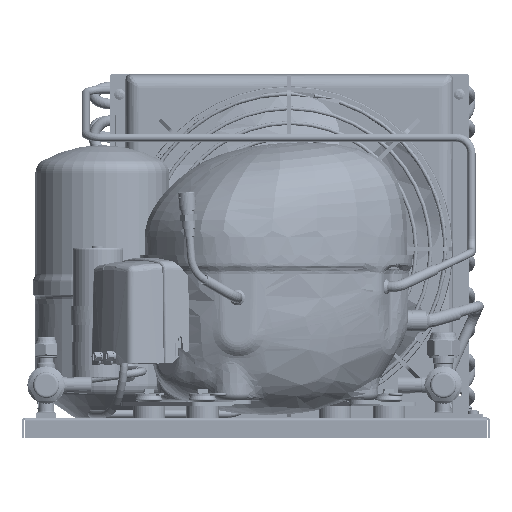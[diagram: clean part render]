
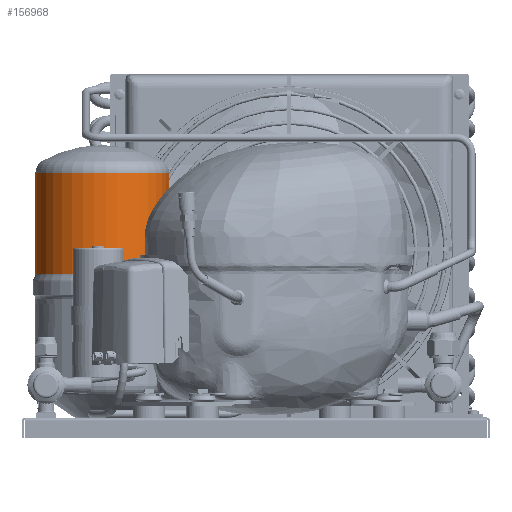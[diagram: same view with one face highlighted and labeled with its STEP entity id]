
A CAD part, front view. The second image highlights one B-rep face of the part: STEP entity #156968.
In plain terms, the highlighted cylindrical face has radius 50 mm (diameter 100 mm), a full revolution.
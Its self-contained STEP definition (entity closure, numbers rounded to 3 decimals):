
#3699=B_SPLINE_CURVE_WITH_KNOTS('',3,(#262653,#262654,#262655,#262656,#262657,
#262658,#262659,#262660,#262661,#262662,#262663,#262664,#262665,#262666,
#262667,#262668,#262669,#262670,#262671,#262672,#262673,#262674,#262675,
#262676,#262677,#262678,#262679,#262680,#262681),.UNSPECIFIED.,.T.,.F.,
(1,1,1,1,1,1,1,1,1,1,1,1,1,1,1,1,1,1,1,1,1,1,1,1,1,1,1,1,1,1,1,1,1),(-0.128,
-0.066,-0.033,0.,0.059,0.091,0.122,
0.184,0.215,0.247,0.309,0.34,
0.372,0.434,0.497,0.5,
0.53,0.559,0.591,0.622,
0.684,0.715,0.747,0.778,
0.809,0.84,0.872,0.934,
0.967,1.,1.059,1.091,1.122),.UNSPECIFIED.);
#40347=CYLINDRICAL_SURFACE('',#166724,50.);
#42801=CIRCLE('',#166725,50.);
#42802=CIRCLE('',#166726,50.);
#59693=ORIENTED_EDGE('',*,*,#89635,.T.);
#59694=ORIENTED_EDGE('',*,*,#89636,.T.);
#59695=ORIENTED_EDGE('',*,*,#89637,.T.);
#89635=EDGE_CURVE('',#105695,#105695,#42801,.F.);
#89636=EDGE_CURVE('',#105696,#105696,#3699,.T.);
#89637=EDGE_CURVE('',#105697,#105697,#42802,.T.);
#105695=VERTEX_POINT('',#262652);
#105696=VERTEX_POINT('',#262682);
#105697=VERTEX_POINT('',#262684);
#132752=EDGE_LOOP('',(#59693));
#132753=EDGE_LOOP('',(#59694));
#132754=EDGE_LOOP('',(#59695));
#142777=FACE_BOUND('',#132752,.T.);
#142778=FACE_BOUND('',#132753,.T.);
#142779=FACE_BOUND('',#132754,.T.);
#156968=ADVANCED_FACE('',(#142777,#142778,#142779),#40347,.T.);
#166724=AXIS2_PLACEMENT_3D('',#262650,#185661,#185662);
#166725=AXIS2_PLACEMENT_3D('',#262651,#185663,#185664);
#166726=AXIS2_PLACEMENT_3D('',#262683,#185665,#185666);
#185661=DIRECTION('',(0.,0.,-1.));
#185662=DIRECTION('',(-1.,0.,0.));
#185663=DIRECTION('',(0.,0.,-1.));
#185664=DIRECTION('',(-1.,0.,0.));
#185665=DIRECTION('',(0.,0.,-1.));
#185666=DIRECTION('',(-1.,0.,0.));
#262650=CARTESIAN_POINT('',(0.,0.,-11.));
#262651=CARTESIAN_POINT('',(0.,0.,107.849));
#262652=CARTESIAN_POINT('',(-50.,0.,107.849));
#262653=CARTESIAN_POINT('',(-49.98,1.706,178.875));
#262654=CARTESIAN_POINT('',(-50.018,-0.456,179.116));
#262655=CARTESIAN_POINT('',(-49.95,-2.604,178.671));
#262656=CARTESIAN_POINT('',(-49.8,-4.535,177.616));
#262657=CARTESIAN_POINT('',(-49.621,-6.235,176.171));
#262658=CARTESIAN_POINT('',(-49.438,-7.497,174.214));
#262659=CARTESIAN_POINT('',(-49.325,-8.192,171.93));
#262660=CARTESIAN_POINT('',(-49.28,-8.45,169.606));
#262661=CARTESIAN_POINT('',(-49.349,-8.059,167.251));
#262662=CARTESIAN_POINT('',(-49.502,-7.059,165.111));
#262663=CARTESIAN_POINT('',(-49.681,-5.722,163.275));
#262664=CARTESIAN_POINT('',(-49.912,-3.443,161.549));
#262665=CARTESIAN_POINT('',(-49.998,-1.227,161.013));
#262666=CARTESIAN_POINT('',(-50.001,0.471,160.994));
#262667=CARTESIAN_POINT('',(-49.984,1.543,161.103));
#262668=CARTESIAN_POINT('',(-49.913,3.082,161.587));
#262669=CARTESIAN_POINT('',(-49.8,4.538,162.384));
#262670=CARTESIAN_POINT('',(-49.621,6.236,163.83));
#262671=CARTESIAN_POINT('',(-49.438,7.495,165.787));
#262672=CARTESIAN_POINT('',(-49.325,8.193,168.074));
#262673=CARTESIAN_POINT('',(-49.292,8.384,169.817));
#262674=CARTESIAN_POINT('',(-49.313,8.259,171.577));
#262675=CARTESIAN_POINT('',(-49.389,7.803,173.293));
#262676=CARTESIAN_POINT('',(-49.503,7.054,174.896));
#262677=CARTESIAN_POINT('',(-49.682,5.713,176.735));
#262678=CARTESIAN_POINT('',(-49.869,3.878,178.115));
#262679=CARTESIAN_POINT('',(-49.98,1.706,178.875));
#262680=CARTESIAN_POINT('',(-50.018,-0.456,179.116));
#262681=CARTESIAN_POINT('',(-49.95,-2.604,178.671));
#262682=CARTESIAN_POINT('',(-50.,0.,179.));
#262683=CARTESIAN_POINT('',(0.,0.,183.409));
#262684=CARTESIAN_POINT('',(-50.,0.,183.409));
